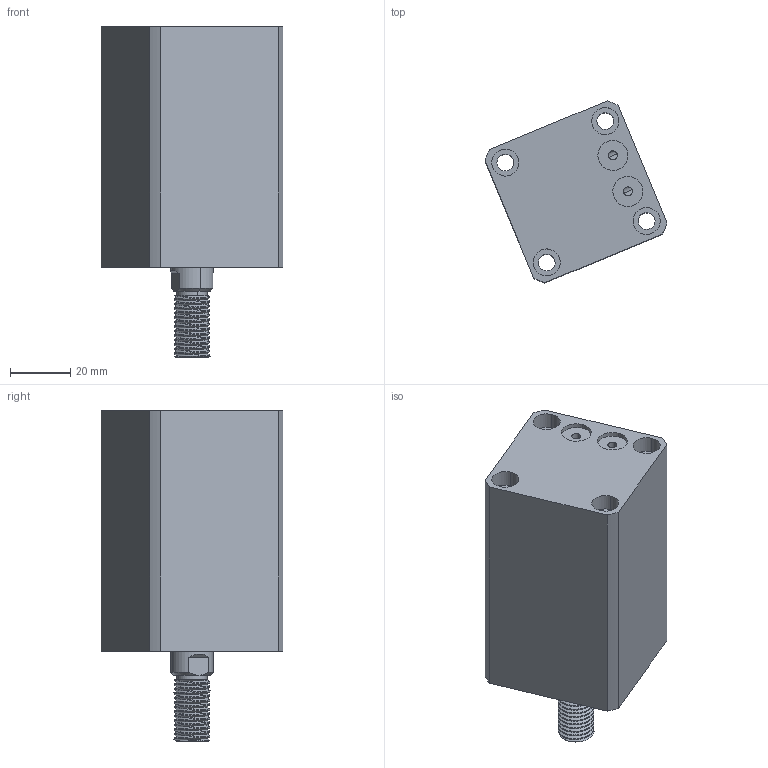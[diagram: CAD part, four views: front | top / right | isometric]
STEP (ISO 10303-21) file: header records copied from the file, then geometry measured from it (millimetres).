
FILE_DESCRIPTION (( 'STEP AP214' ), '1' );
FILE_NAME ('chtb-sdmb25x35w_asm.STEP', '2018-05-24T02:31:17', ( 'Windows' ), ( 'Microsoft' ), 'SwSTEP 2.0', 'SolidWorks 2015', '' );
FILE_SCHEMA (( 'AUTOMOTIVE_DESIGN' ));
Length unit declared in the file: millimetre
Products named in the file (4): CHTB-SDMB25X35WHSG; CHTB-SDMB25X35NBT; CHTB-25QG; chtb-sdmb25x35w_asm
Assembly tree (3 placements, depth 2):
  chtb-sdmb25x35w_asm
    CHTB-25QG
    CHTB-SDMB25X35NBT
    CHTB-SDMB25X35WHSG
Bounding box: 60.55 x 60.55 x 110 mm (x, y, z)
Volume: 163196.1 mm3; surface area: 43971.4 mm2
Topology: 3 solids, 3 shells, 176 faces, 476 edges, 323 vertices
Faces by surface type: cylinder 118, plane 37, bspline 12, cone 9
Entity records: 10721 total; most frequent: CARTESIAN_POINT 6406, ORIENTED_EDGE 944, DIRECTION 765, EDGE_CURVE 472, VERTEX_POINT 323, AXIS2_PLACEMENT_3D 310, EDGE_LOOP 215, FACE_OUTER_BOUND 176
